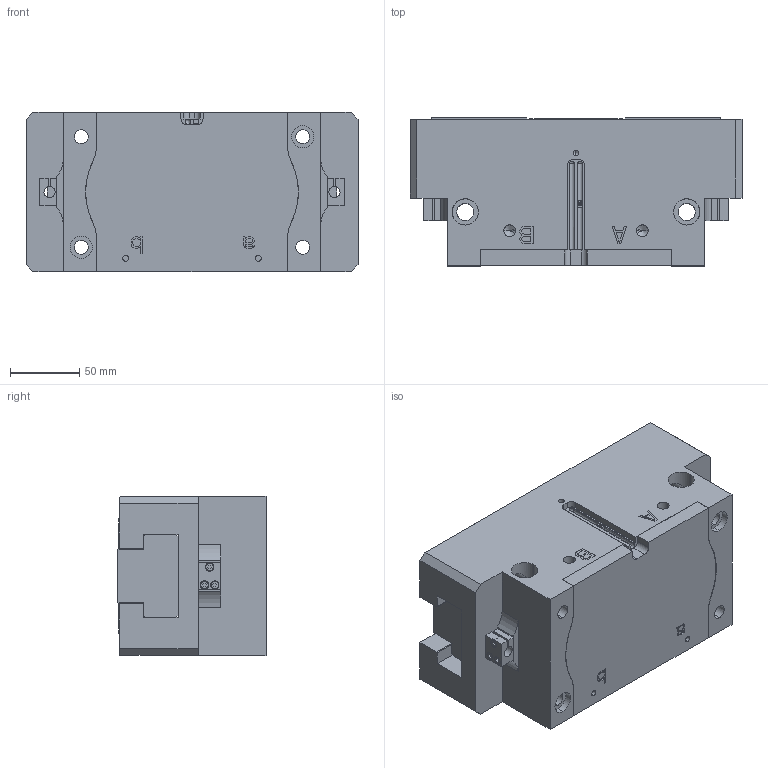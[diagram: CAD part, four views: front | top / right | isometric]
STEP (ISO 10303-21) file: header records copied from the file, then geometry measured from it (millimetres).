
FILE_DESCRIPTION (( 'STEP AP214' ), '1' );
FILE_NAME ('FPT 240A-1.STEP', '2021-09-18T08:10:26', ( 'DEEP' ), ( 'Microsoft' ), 'SwSTEP 2.0', 'SolidWorks 2016', '' );
FILE_SCHEMA (( 'AUTOMOTIVE_DESIGN' ));
Length unit declared in the file: millimetre
Products named in the file (15): FPT 240A-1-001; FPT 240A-1-005; FPT 240A-1-004; FPT 240A-1-006; FPT 240A-1-003; FPT 240A-1-002; FPT 240A-1
Assembly tree (8 placements, depth 2):
  FPT 240A-1-001
  FPT 240A-1-005
  FPT 240A-1-004
  FPT 240A-1-001
  FPT 240A-1-006
Bounding box: 240 x 107 x 115 mm (x, y, z)
Volume: 2393579.1 mm3; surface area: 289386.6 mm2
Topology: 8 solids, 8 shells, 611 faces, 1604 edges, 1035 vertices
Faces by surface type: plane 378, cylinder 167, cone 60, bspline 6
Entity records: 17633 total; most frequent: CARTESIAN_POINT 3831, ORIENTED_EDGE 2724, DIRECTION 2714, EDGE_CURVE 1362, VECTOR 998, LINE 998, VERTEX_POINT 901, AXIS2_PLACEMENT_3D 858
